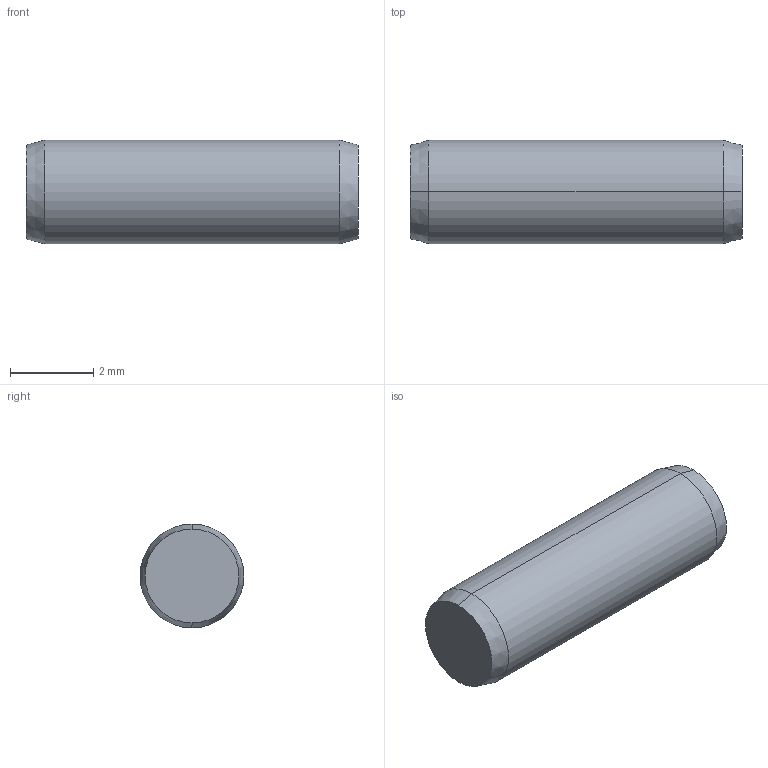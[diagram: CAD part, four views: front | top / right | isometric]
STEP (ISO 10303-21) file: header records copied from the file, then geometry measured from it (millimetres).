
FILE_DESCRIPTION (( 'STEP AP203' ), '1' );
FILE_NAME ('P1206.025-008.step', '2017-06-14T07:59:38', ( 'User' ), ( '' ), 'SwSTEP 2.0', 'SolidWorks 2009', '' );
FILE_SCHEMA (( 'CONFIG_CONTROL_DESIGN' ));
Length unit declared in the file: millimetre
Products named in the file (1): P1206.025-008
Bounding box: 8 x 2.5 x 2.5 mm (x, y, z)
Volume: 38.9 mm3; surface area: 70.7 mm2
Topology: 1 solids, 1 shells, 8 faces, 14 edges, 8 vertices
Faces by surface type: cone 4, cylinder 2, plane 2
Entity records: 271 total; most frequent: DIRECTION 40, CARTESIAN_POINT 31, ORIENTED_EDGE 28, AXIS2_PLACEMENT_3D 17, EDGE_CURVE 14, VERTEX_POINT 8, ADVANCED_FACE 8, EDGE_LOOP 8
